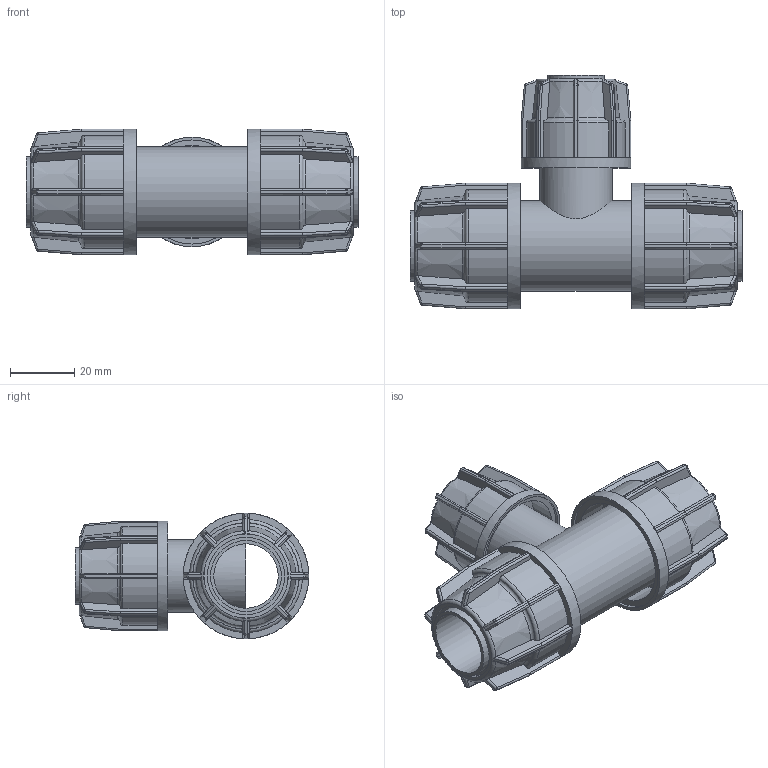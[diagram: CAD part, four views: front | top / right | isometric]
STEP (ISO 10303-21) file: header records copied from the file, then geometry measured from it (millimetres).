
FILE_DESCRIPTION(/* description */ ('PLASSON IRRIFIT REDUCING TEE 20-16-20'),/* implementation_level */ '2;1');
FILE_NAME(/* name */ 'C:\Dropbox\KIMPROJECTS-Inventor\99-16-3568-Processing\Silver+MF ISRAEL\043407\043407020016.ipt.stp',/* time_stamp */ '2018-04-09T12:59:58+03:00',/* author */ ('KIM'),/* organization */ (''),/* preprocessor_version */ 'ST-DEVELOPER v15.6',/* originating_system */ 'Autodesk Inventor 2015',/* authorisation */ '');
FILE_SCHEMA (('AUTOMOTIVE_DESIGN { 1 0 10303 214 3 1 1 }'));
Length unit declared in the file: millimetre
Products named in the file (1): 043407020016
Bounding box: 103 x 72.5 x 39 mm (x, y, z)
Volume: 57713.2 mm3; surface area: 35226.2 mm2
Topology: 2 solids, 2 shells, 767 faces, 1835 edges, 1065 vertices
Faces by surface type: plane 379, cylinder 232, sphere 80, torus 52, cone 24
Full cylindrical faces by diameter (mm): 16 x2, 17.6 x1, 19.2 x1, 20 x1, 22 x2, 22.4 x1, 24 x2, 28 x1, 28.9 x1, 32.3 x1, 33.15 x2, 34 x1, 37.05 x2, 39 x2
Entity records: 22942 total; most frequent: CARTESIAN_POINT 6144, ORIENTED_EDGE 3510, DIRECTION 3504, EDGE_CURVE 1755, AXIS2_PLACEMENT_3D 1395, VERTEX_POINT 1033, EDGE_LOOP 810, FACE_OUTER_BOUND 766
